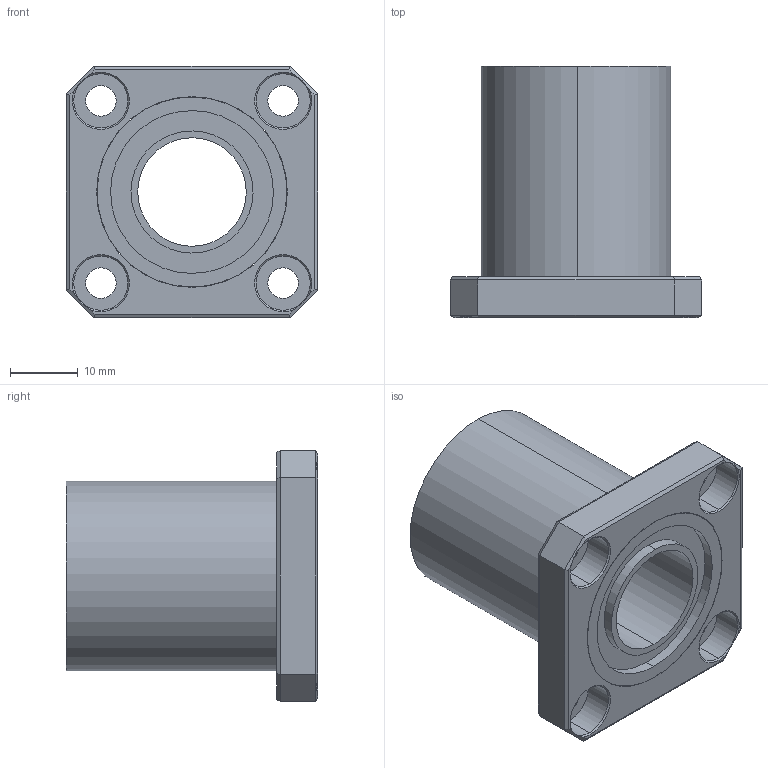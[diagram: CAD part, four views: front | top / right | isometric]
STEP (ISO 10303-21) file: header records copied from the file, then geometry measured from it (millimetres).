
FILE_DESCRIPTION (( 'STEP AP214' ), '1' );
FILE_NAME ('LMK16UU.STEP', '2020-06-29T11:01:11', ( '' ), ( '' ), 'SwSTEP 2.0', 'SolidWorks 2018', '' );
FILE_SCHEMA (( 'AUTOMOTIVE_DESIGN' ));
Length unit declared in the file: millimetre
Products named in the file (3): LMK16UU Part2; LMK16UU Part1; LMK16UU
Assembly tree (2 placements, depth 2):
  LMK16UU
    LMK16UU Part1
    LMK16UU Part2
Bounding box: 37 x 37 x 37 mm (x, y, z)
Volume: 17934.7 mm3; surface area: 9389.9 mm2
Topology: 2 solids, 2 shells, 84 faces, 194 edges, 118 vertices
Faces by surface type: plane 36, cylinder 30, cone 18
Entity records: 2700 total; most frequent: DIRECTION 450, CARTESIAN_POINT 413, ORIENTED_EDGE 388, EDGE_CURVE 194, AXIS2_PLACEMENT_3D 171, VERTEX_POINT 118, LINE 108, VECTOR 108
